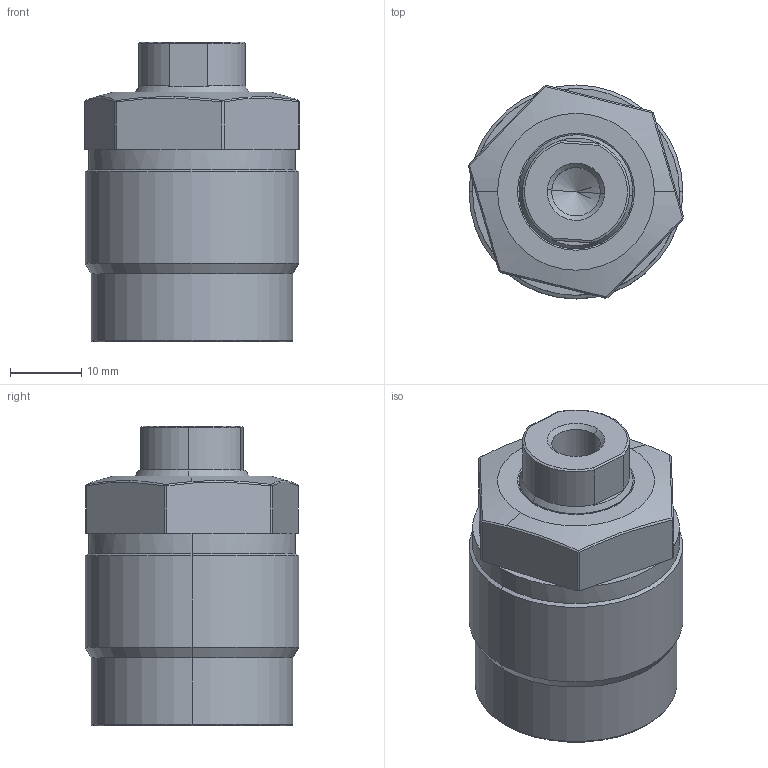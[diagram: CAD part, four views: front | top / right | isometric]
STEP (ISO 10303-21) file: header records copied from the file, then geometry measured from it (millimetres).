
FILE_DESCRIPTION (( 'STEP AP214' ), '1' );
FILE_NAME ('TO3C-M303-S.STEP', '2020-07-10T03:12:49', ( '' ), ( '' ), 'SwSTEP 2.0', 'SolidWorks 2019', '' );
FILE_SCHEMA (( 'AUTOMOTIVE_DESIGN' ));
Length unit declared in the file: millimetre
Products named in the file (3): TO3C-M303-S; TO3C-M303-S BODY; TO3C-M303-S-PLUNGER
Assembly tree (2 placements, depth 2):
  TO3C-M303-S
    TO3C-M303-S BODY
    TO3C-M303-S-PLUNGER
Bounding box: 30.17 x 30 x 42 mm (x, y, z)
Volume: 22719.4 mm3; surface area: 7984.9 mm2
Topology: 2 solids, 2 shells, 88 faces, 200 edges, 119 vertices
Faces by surface type: plane 38, cone 23, cylinder 21, bspline 6
Entity records: 3446 total; most frequent: CARTESIAN_POINT 1378, DIRECTION 404, ORIENTED_EDGE 396, EDGE_CURVE 198, AXIS2_PLACEMENT_3D 159, VERTEX_POINT 119, EDGE_LOOP 93, ADVANCED_FACE 88
